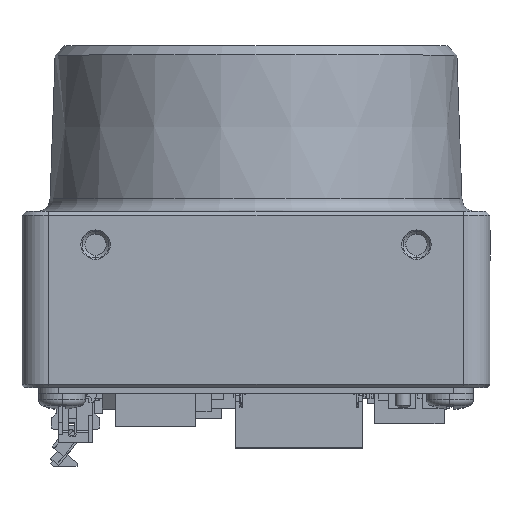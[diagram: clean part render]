
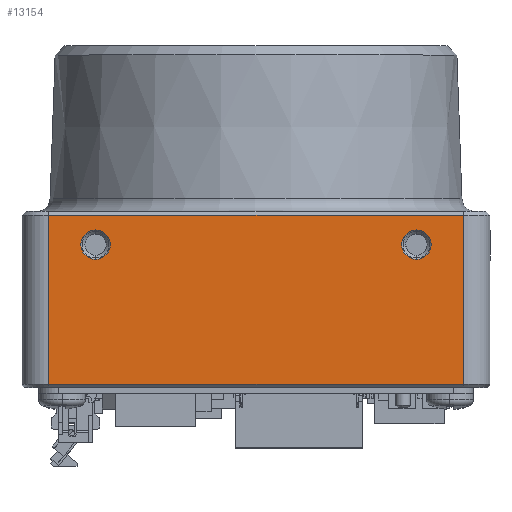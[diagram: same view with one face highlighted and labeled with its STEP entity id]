
A CAD part, top view. The second image highlights one B-rep face of the part: STEP entity #13154.
In plain terms, the highlighted planar face has unit normal (0, 0, 1).
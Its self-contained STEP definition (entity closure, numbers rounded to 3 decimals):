
#1204=DIRECTION('',(-1.,0.,0.));
#1205=VECTOR('',#1204,31.);
#1206=CARTESIAN_POINT('',(15.5,-12.95,17.5));
#1207=LINE('',#1206,#1205);
#1211=DIRECTION('',(1.,0.,0.));
#1212=VECTOR('',#1211,31.);
#1213=CARTESIAN_POINT('',(-15.5,-0.3,
17.5));
#1214=LINE('',#1213,#1212);
#1218=DIRECTION('',(0.,-1.,0.));
#1219=VECTOR('',#1218,12.65);
#1220=CARTESIAN_POINT('',(15.5,-0.3,
17.5));
#1221=LINE('',#1220,#1219);
#1225=CARTESIAN_POINT('',(-12.,-2.5,17.5));
#1226=DIRECTION('',(0.,0.,1.));
#1227=DIRECTION('',(0.,-1.,0.));
#1228=AXIS2_PLACEMENT_3D('',#1225,#1226,#1227);
#1233=CARTESIAN_POINT('',(-12.,-2.5,17.5));
#1234=DIRECTION('',(0.,0.,1.));
#1235=DIRECTION('',(0.,1.,0.));
#1236=AXIS2_PLACEMENT_3D('',#1233,#1234,#1235);
#1241=CARTESIAN_POINT('',(12.,-2.5,17.5));
#1242=DIRECTION('',(0.,0.,1.));
#1243=DIRECTION('',(0.,-1.,0.));
#1244=AXIS2_PLACEMENT_3D('',#1241,#1242,#1243);
#1249=CARTESIAN_POINT('',(12.,-2.5,17.5));
#1250=DIRECTION('',(0.,0.,1.));
#1251=DIRECTION('',(0.,1.,0.));
#1252=AXIS2_PLACEMENT_3D('',#1249,#1250,#1251);
#1273=DIRECTION('',(0.,-1.,0.));
#1274=VECTOR('',#1273,12.65);
#1275=CARTESIAN_POINT('',(-15.5,-0.3,
17.5));
#1276=LINE('',#1275,#1274);
#10500=CARTESIAN_POINT('',(15.5,-0.3,17.5));
#10501=VERTEX_POINT('',#10500);
#10502=CARTESIAN_POINT('',(15.5,-12.95,17.5));
#10503=VERTEX_POINT('',#10502);
#10504=CARTESIAN_POINT('',(-15.5,-12.95,
17.5));
#10505=VERTEX_POINT('',#10504);
#10526=CARTESIAN_POINT('',(-15.5,-0.3,
17.5));
#10527=VERTEX_POINT('',#10526);
#10528=CARTESIAN_POINT('',(-12.,-3.6,17.5));
#10529=CARTESIAN_POINT('',(-12.,-1.4,17.5));
#10530=VERTEX_POINT('',#10528);
#10531=VERTEX_POINT('',#10529);
#10532=CARTESIAN_POINT('',(12.,-3.6,17.5));
#10533=CARTESIAN_POINT('',(12.,-1.4,17.5));
#10534=VERTEX_POINT('',#10532);
#10535=VERTEX_POINT('',#10533);
#13129=CARTESIAN_POINT('',(0.,-6.625,17.5));
#13130=DIRECTION('',(0.,0.,1.));
#13131=DIRECTION('',(1.,0.,0.));
#13132=AXIS2_PLACEMENT_3D('',#13129,#13130,#13131);
#13133=PLANE('',#13132);
#13134=ORIENTED_EDGE('',*,*,#12924,.T.);
#13136=ORIENTED_EDGE('',*,*,#13135,.F.);
#13138=ORIENTED_EDGE('',*,*,#13137,.T.);
#13139=ORIENTED_EDGE('',*,*,#13114,.T.);
#13140=EDGE_LOOP('',(#13134,#13136,#13138,#13139));
#13141=FACE_OUTER_BOUND('',#13140,.F.);
#13143=ORIENTED_EDGE('',*,*,#13142,.T.);
#13145=ORIENTED_EDGE('',*,*,#13144,.T.);
#13146=EDGE_LOOP('',(#13143,#13145));
#13147=FACE_BOUND('',#13146,.F.);
#13149=ORIENTED_EDGE('',*,*,#13148,.T.);
#13151=ORIENTED_EDGE('',*,*,#13150,.T.);
#13152=EDGE_LOOP('',(#13149,#13151));
#13153=FACE_BOUND('',#13152,.F.);
#13154=ADVANCED_FACE('',(#13141,#13147,#13153),#13133,.T.);
#1229=CIRCLE('',#1228,1.1);
#1237=CIRCLE('',#1236,1.1);
#1245=CIRCLE('',#1244,1.1);
#1253=CIRCLE('',#1252,1.1);
#12924=EDGE_CURVE('',#10503,#10505,#1207,.T.);
#13114=EDGE_CURVE('',#10501,#10503,#1221,.T.);
#13135=EDGE_CURVE('',#10527,#10505,#1276,.T.);
#13137=EDGE_CURVE('',#10527,#10501,#1214,.T.);
#13142=EDGE_CURVE('',#10530,#10531,#1229,.T.);
#13144=EDGE_CURVE('',#10531,#10530,#1237,.T.);
#13148=EDGE_CURVE('',#10534,#10535,#1245,.T.);
#13150=EDGE_CURVE('',#10535,#10534,#1253,.T.);
